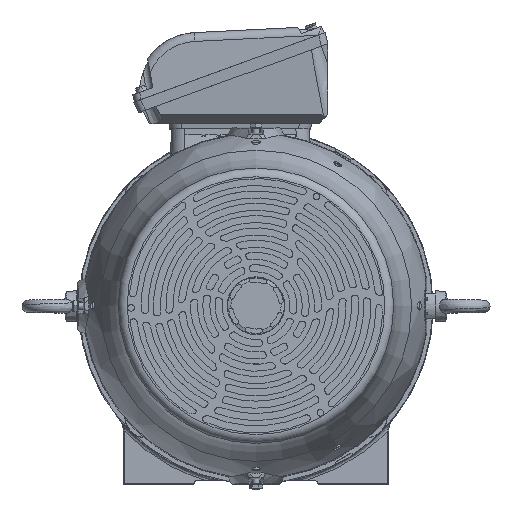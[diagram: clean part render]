
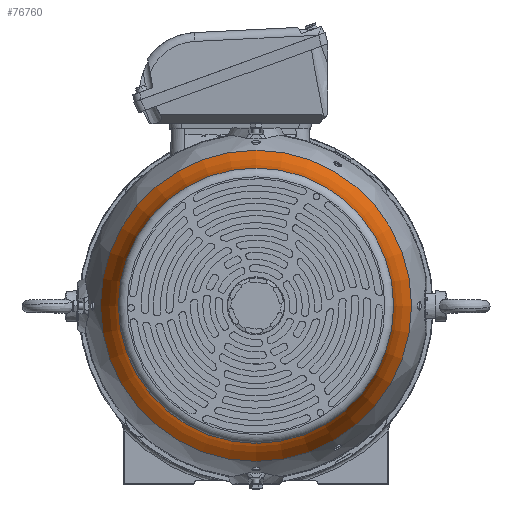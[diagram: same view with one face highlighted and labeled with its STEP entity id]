
A CAD part, top view. The second image highlights one B-rep face of the part: STEP entity #76760.
In plain terms, the highlighted toroidal (fillet/blend) face has major radius 333.581 mm and minor radius 178.663 mm.
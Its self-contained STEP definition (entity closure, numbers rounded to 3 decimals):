
#4616=TOROIDAL_SURFACE('',#83447,333.581,178.663);
#9609=FACE_OUTER_BOUND('',#14089,.T.);
#14089=EDGE_LOOP('',(#61464,#61465,#61466,#61467,#61468,#61469));
#18302=CIRCLE('',#83190,155.304);
#18303=CIRCLE('',#83191,155.304);
#18399=CIRCLE('',#83445,175.502);
#18400=CIRCLE('',#83446,175.502);
#18401=CIRCLE('',#83448,178.663);
#32870=VERTEX_POINT('',#145830);
#32871=VERTEX_POINT('',#145832);
#33098=VERTEX_POINT('',#149077);
#33099=VERTEX_POINT('',#149078);
#42663=EDGE_CURVE('',#32870,#32871,#18302,.T.);
#42664=EDGE_CURVE('',#32871,#32870,#18303,.T.);
#42993=EDGE_CURVE('',#33098,#33099,#18399,.T.);
#42994=EDGE_CURVE('',#33099,#33098,#18400,.T.);
#43002=EDGE_CURVE('',#32870,#33099,#18401,.T.);
#61464=ORIENTED_EDGE('',*,*,#42664,.F.);
#61465=ORIENTED_EDGE('',*,*,#42663,.F.);
#61466=ORIENTED_EDGE('',*,*,#43002,.T.);
#61467=ORIENTED_EDGE('',*,*,#42994,.T.);
#61468=ORIENTED_EDGE('',*,*,#42993,.T.);
#61469=ORIENTED_EDGE('',*,*,#43002,.F.);
#76760=ADVANCED_FACE('',(#9609),#4616,.F.);
#83190=AXIS2_PLACEMENT_3D('',#145833,#98207,#98208);
#83191=AXIS2_PLACEMENT_3D('',#145834,#98209,#98210);
#83445=AXIS2_PLACEMENT_3D('',#149079,#98829,#98830);
#83446=AXIS2_PLACEMENT_3D('',#149080,#98831,#98832);
#83447=AXIS2_PLACEMENT_3D('',#149188,#98833,#98834);
#83448=AXIS2_PLACEMENT_3D('',#149189,#98835,#98836);
#98207=DIRECTION('center_axis',(0.,0.,
1.));
#98208=DIRECTION('ref_axis',(0.,1.,0.));
#98209=DIRECTION('center_axis',(0.,0.,
1.));
#98210=DIRECTION('ref_axis',(0.,1.,0.));
#98829=DIRECTION('center_axis',(0.,0.,
1.));
#98830=DIRECTION('ref_axis',(0.,1.,0.));
#98831=DIRECTION('center_axis',(0.,0.,
1.));
#98832=DIRECTION('ref_axis',(0.,1.,0.));
#98833=DIRECTION('center_axis',(0.,0.,
1.));
#98834=DIRECTION('ref_axis',(0.,1.,0.));
#98835=DIRECTION('center_axis',(-1.,0.,0.));
#98836=DIRECTION('ref_axis',(0.,-1.,0.));
#145830=CARTESIAN_POINT('',(0.,-155.304,766.784));
#145832=CARTESIAN_POINT('',(0.,155.304,766.784));
#145833=CARTESIAN_POINT('Origin',(0.,0.,
766.784));
#145834=CARTESIAN_POINT('Origin',(0.,0.,
766.784));
#149077=CARTESIAN_POINT('',(0.,175.502,695.273));
#149078=CARTESIAN_POINT('',(0.,-175.502,695.273));
#149079=CARTESIAN_POINT('Origin',(0.,0.,
695.273));
#149080=CARTESIAN_POINT('Origin',(0.,0.,
695.273));
#149188=CARTESIAN_POINT('Origin',(0.,0.,
778.528));
#149189=CARTESIAN_POINT('Origin',(0.,-333.581,
778.528));
